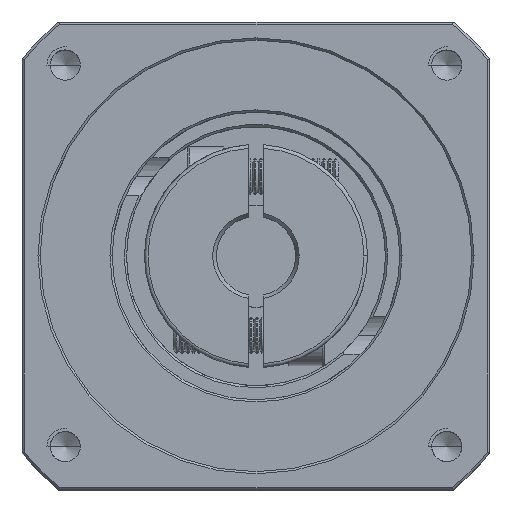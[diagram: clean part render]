
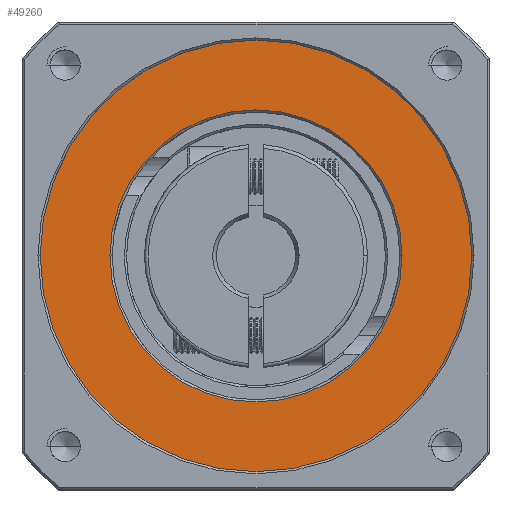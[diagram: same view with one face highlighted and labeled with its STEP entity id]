
A CAD part, top view. The second image highlights one B-rep face of the part: STEP entity #49260.
In plain terms, the highlighted planar face has unit normal (0, 0, 1).
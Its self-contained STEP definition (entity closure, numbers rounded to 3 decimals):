
#2777 = AXIS2_PLACEMENT_3D ( 'NONE', #94420, #77859, #70428 ) ;
#3265 = EDGE_CURVE ( 'NONE', #51518, #105120, #51740, .T. ) ;
#3717 = EDGE_CURVE ( 'NONE', #105120, #51518, #78060, .T. ) ;
#6410 = CARTESIAN_POINT ( 'NONE',  ( -91.9, 23.265, 17.333 ) ) ;
#9615 = CARTESIAN_POINT ( 'NONE',  ( -61.9, 23.265, 17.333 ) ) ;
#13071 = CIRCLE ( 'NONE', #75391, 30. ) ;
#13793 = EDGE_CURVE ( 'NONE', #18128, #22725, #13071, .T. ) ;
#15043 = CARTESIAN_POINT ( 'NONE',  ( -82.2, 23.265, 17.333 ) ) ;
#17480 = CARTESIAN_POINT ( 'NONE',  ( -61.9, 23.265, 17.333 ) ) ;
#18128 = VERTEX_POINT ( 'NONE', #95066 ) ;
#22725 = VERTEX_POINT ( 'NONE', #6410 ) ;
#24249 = ORIENTED_EDGE ( 'NONE', *, *, #13793, .T. ) ;
#25984 = DIRECTION ( 'NONE',  ( 0., 0., -1. ) ) ;
#34524 = DIRECTION ( 'NONE',  ( 1., 0., 0. ) ) ;
#36552 = EDGE_LOOP ( 'NONE', ( #58469, #85422 ) ) ;
#43221 = PLANE ( 'NONE',  #61542 ) ;
#47962 = CIRCLE ( 'NONE', #101922, 30. ) ;
#48750 = DIRECTION ( 'NONE',  ( 0., 0., 1. ) ) ;
#49260 = ADVANCED_FACE ( 'NONE', ( #63408, #80653 ), #43221, .T. ) ;
#51518 = VERTEX_POINT ( 'NONE', #68888 ) ;
#51735 = DIRECTION ( 'NONE',  ( 1., 0., 0. ) ) ;
#51740 = CIRCLE ( 'NONE', #2777, 20.3 ) ;
#55007 = DIRECTION ( 'NONE',  ( 1., 0., 0. ) ) ;
#57217 = ORIENTED_EDGE ( 'NONE', *, *, #95894, .T. ) ;
#58469 = ORIENTED_EDGE ( 'NONE', *, *, #3265, .T. ) ;
#61542 = AXIS2_PLACEMENT_3D ( 'NONE', #9615, #102627, #51735 ) ;
#63123 = DIRECTION ( 'NONE',  ( 0., 0., 1. ) ) ;
#63408 = FACE_BOUND ( 'NONE', #36552, .T. ) ;
#68888 = CARTESIAN_POINT ( 'NONE',  ( -41.6, 23.265, 17.333 ) ) ;
#70428 = DIRECTION ( 'NONE',  ( 1., 0., 0. ) ) ;
#75391 = AXIS2_PLACEMENT_3D ( 'NONE', #99252, #48750, #107756 ) ;
#77859 = DIRECTION ( 'NONE',  ( 0., 0., -1. ) ) ;
#78060 = CIRCLE ( 'NONE', #80599, 20.3 ) ;
#80537 = CARTESIAN_POINT ( 'NONE',  ( -61.9, 23.265, 17.333 ) ) ;
#80599 = AXIS2_PLACEMENT_3D ( 'NONE', #17480, #25984, #34524 ) ;
#80653 = FACE_OUTER_BOUND ( 'NONE', #99806, .T. ) ;
#85422 = ORIENTED_EDGE ( 'NONE', *, *, #3717, .T. ) ;
#94420 = CARTESIAN_POINT ( 'NONE',  ( -61.9, 23.265, 17.333 ) ) ;
#95066 = CARTESIAN_POINT ( 'NONE',  ( -31.9, 23.265, 17.333 ) ) ;
#95894 = EDGE_CURVE ( 'NONE', #22725, #18128, #47962, .T. ) ;
#99252 = CARTESIAN_POINT ( 'NONE',  ( -61.9, 23.265, 17.333 ) ) ;
#99806 = EDGE_LOOP ( 'NONE', ( #24249, #57217 ) ) ;
#101922 = AXIS2_PLACEMENT_3D ( 'NONE', #80537, #63123, #55007 ) ;
#102627 = DIRECTION ( 'NONE',  ( 0., 0., 1. ) ) ;
#105120 = VERTEX_POINT ( 'NONE', #15043 ) ;
#107756 = DIRECTION ( 'NONE',  ( 1., 0., 0. ) ) ;
